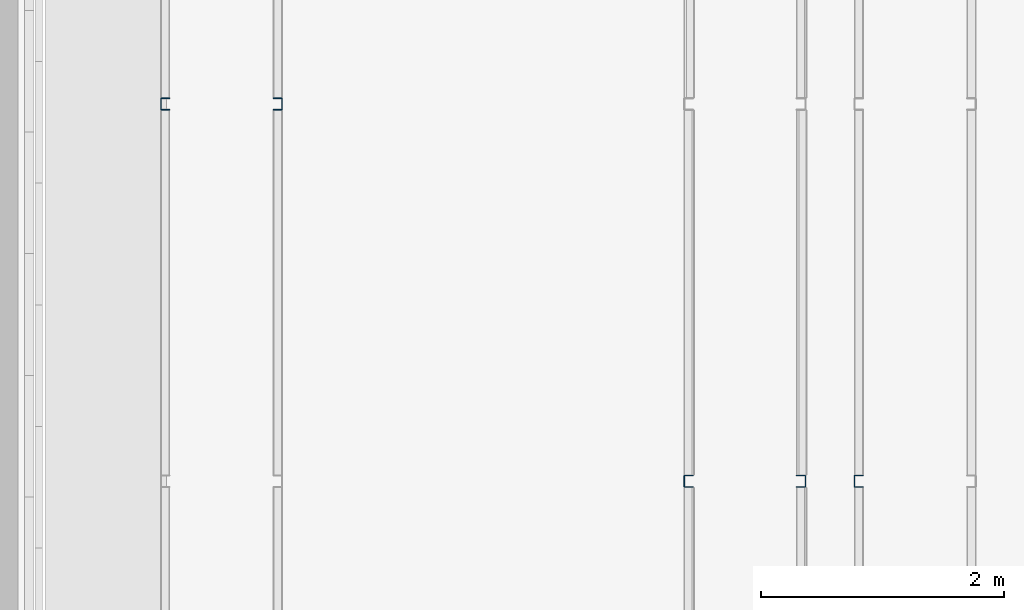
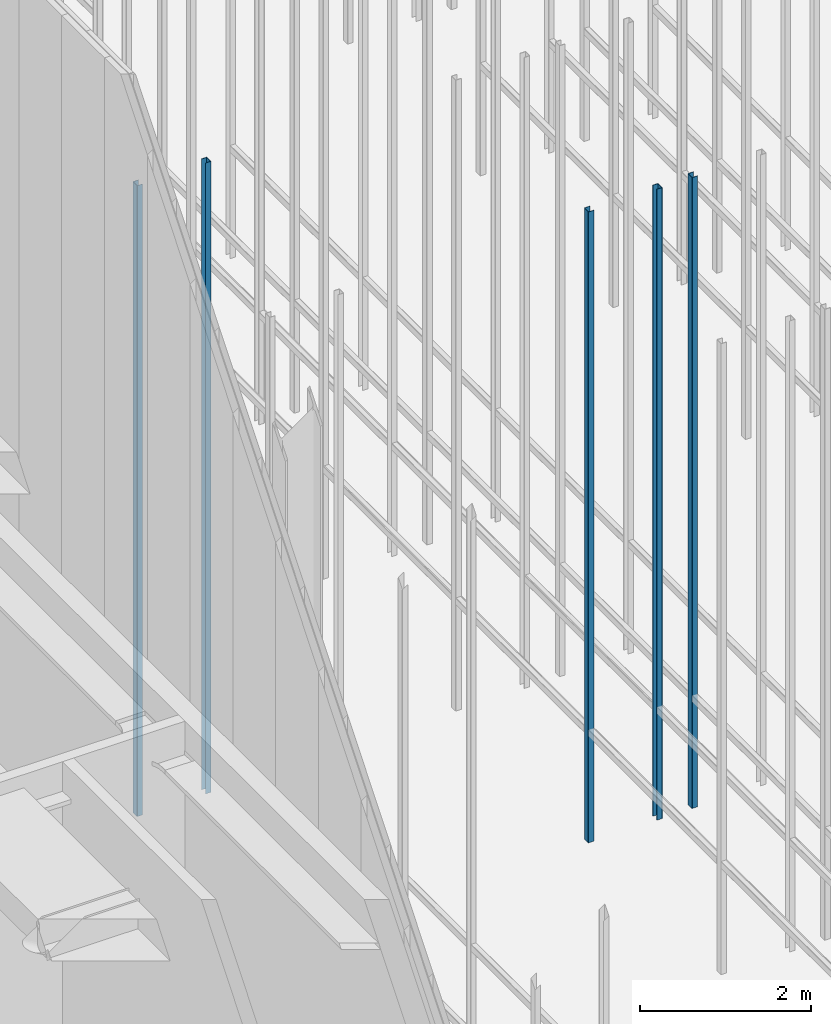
# One storey, part 17 of 302: 5 columns.
"""IFC2X3 building model written with IfcOpenShell, lengths in metres."""

from ifc_helpers import new_model, entity, si_unit, converted_unit, derived_unit, direction, frame, frame_2d, origin, place, context, subcontext, project, spatial, polyline, circle_curve, parameter, trimmed, segment, composite_curve, outline, extrude, source, transform, mapped, material, type_object, type_shapes, element, save


model = new_model("IFC2X3")

# Units and contexts
model_context = context("Model", 3, precision=1e-05, world=origin(), true_north=direction((6.12303176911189e-17, 1.0)))
body_context = subcontext(model_context, "Body", "Model", "MODEL_VIEW")
ifc_project = project(units=[si_unit("LENGTHUNIT", "METRE"), si_unit("AREAUNIT", "SQUARE_METRE"), si_unit("VOLUMEUNIT", "CUBIC_METRE"), converted_unit("PLANEANGLEUNIT", "DEGREE", entity("IfcRatioMeasure", 0.0174532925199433), si_unit("PLANEANGLEUNIT", "RADIAN"), dimensions=[0, 0, 0, 0, 0, 0, 0]), si_unit("MASSUNIT", "GRAM", prefix="KILO"), derived_unit("MASSDENSITYUNIT", [(si_unit("MASSUNIT", "GRAM", prefix="KILO"), 1), (si_unit("LENGTHUNIT", "METRE"), -3)]), derived_unit("MOMENTOFINERTIAUNIT", [(si_unit("LENGTHUNIT", "METRE"), 4)]), si_unit("TIMEUNIT", "SECOND"), si_unit("FREQUENCYUNIT", "HERTZ"), si_unit("THERMODYNAMICTEMPERATUREUNIT", "DEGREE_CELSIUS"), derived_unit("THERMALTRANSMITTANCEUNIT", [(si_unit("MASSUNIT", "GRAM", prefix="KILO"), 1), (si_unit("THERMODYNAMICTEMPERATUREUNIT", "KELVIN"), -1), (si_unit("TIMEUNIT", "SECOND"), -3)]), derived_unit("VOLUMETRICFLOWRATEUNIT", [(si_unit("LENGTHUNIT", "METRE"), 3), (si_unit("TIMEUNIT", "SECOND"), -1)]), si_unit("ELECTRICCURRENTUNIT", "AMPERE"), si_unit("ELECTRICVOLTAGEUNIT", "VOLT"), si_unit("POWERUNIT", "WATT"), si_unit("FORCEUNIT", "NEWTON", prefix="KILO"), si_unit("ILLUMINANCEUNIT", "LUX"), si_unit("LUMINOUSFLUXUNIT", "LUMEN"), si_unit("LUMINOUSINTENSITYUNIT", "CANDELA"), derived_unit("USERDEFINED", [(si_unit("MASSUNIT", "GRAM", prefix="KILO"), -1), (si_unit("LENGTHUNIT", "METRE"), -2), (si_unit("TIMEUNIT", "SECOND"), 3), (si_unit("LUMINOUSFLUXUNIT", "LUMEN"), 1)]), derived_unit("LINEARVELOCITYUNIT", [(si_unit("LENGTHUNIT", "METRE"), 1), (si_unit("TIMEUNIT", "SECOND"), -1)]), si_unit("PRESSUREUNIT", "PASCAL"), derived_unit("USERDEFINED", [(si_unit("LENGTHUNIT", "METRE"), -2), (si_unit("MASSUNIT", "GRAM", prefix="KILO"), 1), (si_unit("TIMEUNIT", "SECOND"), -2)]), derived_unit("LINEARFORCEUNIT", [(si_unit("MASSUNIT", "GRAM", prefix="KILO"), 1), (si_unit("LENGTHUNIT", "METRE"), 1), (si_unit("TIMEUNIT", "SECOND"), -2), (si_unit("LENGTHUNIT", "METRE"), -1)]), derived_unit("PLANARFORCEUNIT", [(si_unit("MASSUNIT", "GRAM", prefix="KILO"), 1), (si_unit("LENGTHUNIT", "METRE"), 1), (si_unit("TIMEUNIT", "SECOND"), -2), (si_unit("LENGTHUNIT", "METRE"), -2)])], contexts=[model_context])

# Site, building, storey
site_placement = place(None, origin())
site = spatial("IfcSite", under=ifc_project, at=site_placement, Name="Default", CompositionType="ELEMENT")
building_placement = place(site_placement, origin())
building = spatial("IfcBuilding", under=site, at=building_placement, CompositionType="ELEMENT")
storey_placement = place(building_placement, frame((0.0, 0.0, -1.3)))
storey = spatial("IfcBuildingStorey", under=building, at=storey_placement, Name="00_EG", CompositionType="ELEMENT", Elevation=-1.3)

# Columns
ifc_material = material(Name="Metall - Baustahl S235")
column_type_1 = type_object("IfcColumnType", Name="Leichter Stahl Schlossschrauben Stütze:C 100", PredefinedType="COLUMN", material=ifc_material)
shared_shape_1 = source(origin(), body_context, "Body", "SweptSolid", [
    extrude(outline(composite_curve([segment(polyline([(-0.0469749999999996, -0.0499999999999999), (0.0214500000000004, -0.0499999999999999)]), True, "CONTINUOUS"), segment(trimmed(circle_curve(frame_2d((0.0214500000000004, -0.0434249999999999), x_axis=(0.0, -1.0)), 0.00657500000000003), [parameter(0.0)], [parameter(89.9999999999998)], True, "PARAMETER"), True, "CONTINUOUS"), segment(polyline([(0.0280250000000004, -0.0434249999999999), (0.0280250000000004, 0.0434250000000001)]), True, "CONTINUOUS"), segment(trimmed(circle_curve(frame_2d((0.0214500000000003, 0.0434250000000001), x_axis=(1.0, 0.0)), 0.0065750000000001), [parameter(0.0)], [parameter(89.9999999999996)], True, "PARAMETER"), True, "CONTINUOUS"), segment(polyline([(0.0214500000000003, 0.0500000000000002), (-0.0469750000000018, 0.0500000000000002)]), True, "CONTINUOUS"), segment(polyline([(-0.0469750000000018, 0.0500000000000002), (-0.0469750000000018, 0.0450000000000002)]), True, "CONTINUOUS"), segment(polyline([(-0.0469750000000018, 0.0450000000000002), (0.0214500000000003, 0.0450000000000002)]), True, "CONTINUOUS"), segment(trimmed(circle_curve(frame_2d((0.0214500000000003, 0.0434249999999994), x_axis=(0.0, 1.0)), 0.00157500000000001), [parameter(269.999999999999)], [parameter(0.0)], True, "PARAMETER"), False, "CONTINUOUS"), segment(polyline([(0.0230250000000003, 0.0434249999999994), (0.0230250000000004, -0.0434249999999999)]), True, "CONTINUOUS"), segment(trimmed(circle_curve(frame_2d((0.0214500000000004, -0.0434249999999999), x_axis=(1.0, 0.0)), 0.00157500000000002), [parameter(270.0)], [parameter(0.0)], True, "PARAMETER"), False, "CONTINUOUS"), segment(polyline([(0.0214500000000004, -0.0449999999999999), (-0.0469749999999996, -0.0449999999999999)]), True, "CONTINUOUS"), segment(polyline([(-0.0469749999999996, -0.0449999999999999), (-0.0469749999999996, -0.0499999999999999)]), True, "CONTINUOUS")], self_intersect=False)), frame((0.0499999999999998, 0.0280250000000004, -0.0300000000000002), z_axis=(0.0, 0.0, 1.0), x_axis=(0.0, -1.0, 0.0)), (0.0, 0.0, 1.0), 9.0),
])
type_shapes(column_type_1, [shared_shape_1])
for number, where, z_axis, x_axis in (
    (1, (-200.790111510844, 33.348088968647, 1.3), (0.0, 0.0, 1.0), (0.0, -1.0, 0.0)),
    (2, (-202.190111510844, 33.348088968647, 1.3), (0.0, 0.0, 1.0), (0.0, -1.0, 0.0)),
    (3, (-206.490111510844, 36.448088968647, 1.3), (0.0, 0.0, 1.0), (0.0, -1.0, 0.0)),
):
    element("IfcColumn", number, at=place(storey_placement, frame(where, z_axis=z_axis, x_axis=x_axis)), inside=storey, type_object=column_type_1, material=ifc_material, Name="Leichter Stahl Schlossschrauben Stütze:C 100", ObjectType="Leichter Stahl Schlossschrauben Stütze:C 100", context=body_context, shape_type="MappedRepresentation", body=[
        mapped(shared_shape_1, transform((0.0, 0.0, 0.0), scale=1.0)),
    ])
column_type_2 = type_object("IfcColumnType", Name="Leichter Stahl Schlossschrauben Stütze:C 100", PredefinedType="COLUMN", material=ifc_material)
shared_shape_2 = source(origin(), body_context, "Body", "SweptSolid", [
    extrude(outline(composite_curve([segment(polyline([(-0.0214500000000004, -0.0499999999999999), (0.0469749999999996, -0.0499999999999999)]), True, "CONTINUOUS"), segment(polyline([(0.0469749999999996, -0.0499999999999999), (0.0469749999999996, -0.0449999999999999)]), True, "CONTINUOUS"), segment(polyline([(0.0469749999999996, -0.0449999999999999), (-0.0214500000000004, -0.045)]), True, "CONTINUOUS"), segment(trimmed(circle_curve(frame_2d((-0.0214500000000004, -0.043425), x_axis=(0.0, -1.0)), 0.00157500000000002), [parameter(270.0)], [parameter(0.0)], True, "PARAMETER"), False, "CONTINUOUS"), segment(polyline([(-0.0230250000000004, -0.0434249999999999), (-0.0230250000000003, 0.0434249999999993)]), True, "CONTINUOUS"), segment(trimmed(circle_curve(frame_2d((-0.0214500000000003, 0.0434249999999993), x_axis=(-1.0, 0.0)), 0.00157500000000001), [parameter(269.999999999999)], [parameter(0.0)], True, "PARAMETER"), False, "CONTINUOUS"), segment(polyline([(-0.0214500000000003, 0.0450000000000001), (0.0469750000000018, 0.0450000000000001)]), True, "CONTINUOUS"), segment(polyline([(0.0469750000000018, 0.0450000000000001), (0.0469750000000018, 0.0500000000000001)]), True, "CONTINUOUS"), segment(polyline([(0.0469750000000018, 0.0500000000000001), (-0.0214500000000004, 0.0500000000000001)]), True, "CONTINUOUS"), segment(trimmed(circle_curve(frame_2d((-0.0214500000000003, 0.043425), x_axis=(0.0, 1.0)), 0.0065750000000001), [parameter(0.0)], [parameter(89.9999999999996)], True, "PARAMETER"), True, "CONTINUOUS"), segment(polyline([(-0.0280250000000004, 0.043425), (-0.0280250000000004, -0.043425)]), True, "CONTINUOUS"), segment(trimmed(circle_curve(frame_2d((-0.0214500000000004, -0.0434249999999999), x_axis=(-1.0, 0.0)), 0.00657500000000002), [parameter(0.0)], [parameter(89.9999999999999)], True, "PARAMETER"), True, "CONTINUOUS")], self_intersect=False)), frame((0.0499999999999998, -0.0280250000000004, -0.0300000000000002), z_axis=(0.0, 0.0, 1.0), x_axis=(0.0, -1.0, 0.0)), (0.0, 0.0, 1.0), 9.0),
])
type_shapes(column_type_2, [shared_shape_2])
for number, where, z_axis, x_axis in (
    (4, (-201.190111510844, 33.348088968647, 1.3), (0.0, 0.0, 1.0), (0.0, -1.0, 0.0)),
    (5, (-205.490111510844, 36.448088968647, 1.3), (0.0, 0.0, 1.0), (0.0, -1.0, 0.0)),
):
    element("IfcColumn", number, at=place(storey_placement, frame(where, z_axis=z_axis, x_axis=x_axis)), inside=storey, type_object=column_type_2, material=ifc_material, Name="Leichter Stahl Schlossschrauben Stütze:C 100", ObjectType="Leichter Stahl Schlossschrauben Stütze:C 100", context=body_context, shape_type="MappedRepresentation", body=[
        mapped(shared_shape_2, transform((0.0, 0.0, 0.0), scale=1.0)),
    ])

save(model, "model.ifc")
